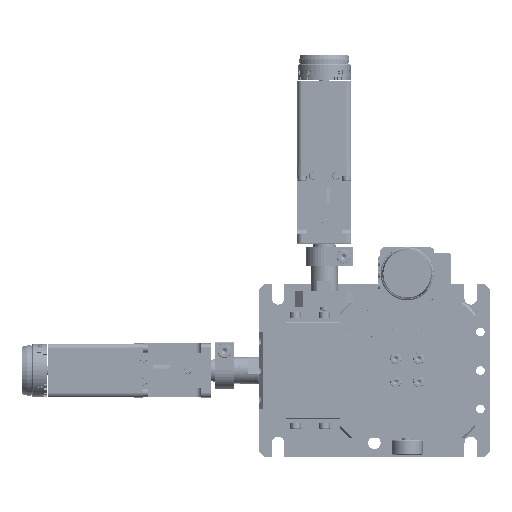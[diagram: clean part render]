
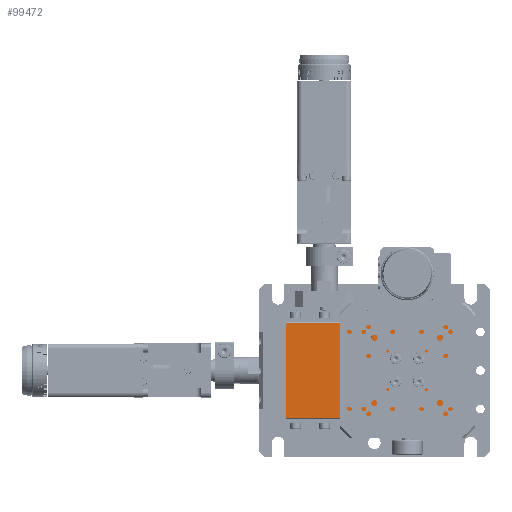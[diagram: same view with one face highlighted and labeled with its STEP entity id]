
A CAD part, top view. The second image highlights one B-rep face of the part: STEP entity #99472.
In plain terms, the highlighted planar face has unit normal (0, 0, 1).
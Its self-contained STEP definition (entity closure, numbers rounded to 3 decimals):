
#5541=LINE('',#138876,#13339);
#5544=LINE('',#138881,#13342);
#5547=LINE('',#138887,#13345);
#5550=LINE('',#138892,#13348);
#13339=VECTOR('',#115437,49.6);
#13342=VECTOR('',#115442,87.6);
#13345=VECTOR('',#115447,87.6);
#13348=VECTOR('',#115452,49.6);
#28631=FACE_BOUND('',#31066,.T.);
#28632=FACE_BOUND('',#31067,.T.);
#31066=EDGE_LOOP('',(#67242));
#31067=EDGE_LOOP('',(#67243,#67244,#67245,#67246));
#37982=CIRCLE('',#105923,12.);
#40973=VERTEX_POINT('',#138113);
#41194=VERTEX_POINT('',#138874);
#41195=VERTEX_POINT('',#138875);
#41196=VERTEX_POINT('',#138880);
#41198=VERTEX_POINT('',#138886);
#51237=EDGE_CURVE('',#40973,#40973,#37982,.T.);
#51539=EDGE_CURVE('',#41194,#41195,#5541,.T.);
#51542=EDGE_CURVE('',#41196,#41194,#5544,.T.);
#51545=EDGE_CURVE('',#41195,#41198,#5547,.T.);
#51548=EDGE_CURVE('',#41198,#41196,#5550,.T.);
#67242=ORIENTED_EDGE('',*,*,#51237,.T.);
#67243=ORIENTED_EDGE('',*,*,#51539,.F.);
#67244=ORIENTED_EDGE('',*,*,#51542,.F.);
#67245=ORIENTED_EDGE('',*,*,#51548,.F.);
#67246=ORIENTED_EDGE('',*,*,#51545,.F.);
#95639=PLANE('',#106100);
#99472=ADVANCED_FACE('',(#28631,#28632),#95639,.F.);
#105923=AXIS2_PLACEMENT_3D('',#138114,#114885,#114886);
#106100=AXIS2_PLACEMENT_3D('',#138898,#115456,#115457);
#114885=DIRECTION('center_axis',(0.,0.,
-1.));
#114886=DIRECTION('ref_axis',(0.,1.,0.));
#115437=DIRECTION('',(0.,-1.,0.));
#115442=DIRECTION('',(1.,0.,0.));
#115447=DIRECTION('',(-1.,0.,0.));
#115452=DIRECTION('',(0.,1.,0.));
#115456=DIRECTION('center_axis',(0.,0.,
-1.));
#115457=DIRECTION('ref_axis',(0.,-1.,0.));
#138113=CARTESIAN_POINT('',(77.,33.,66.));
#138114=CARTESIAN_POINT('Origin',(77.,45.,66.));
#138874=CARTESIAN_POINT('',(101.8,69.8,66.));
#138875=CARTESIAN_POINT('',(101.8,20.2,66.));
#138876=CARTESIAN_POINT('',(101.8,32.5,66.));
#138880=CARTESIAN_POINT('',(14.2,69.8,66.));
#138881=CARTESIAN_POINT('',(80.,69.8,66.));
#138886=CARTESIAN_POINT('',(14.2,20.2,66.));
#138887=CARTESIAN_POINT('',(36.,20.2,66.));
#138892=CARTESIAN_POINT('',(14.2,57.5,66.));
#138898=CARTESIAN_POINT('Origin',(58.,45.,66.));
